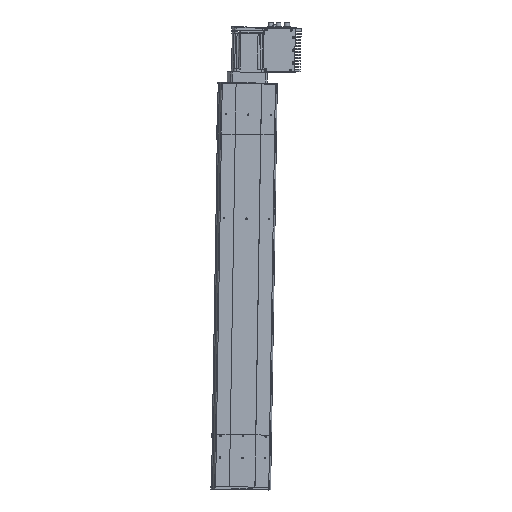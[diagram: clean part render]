
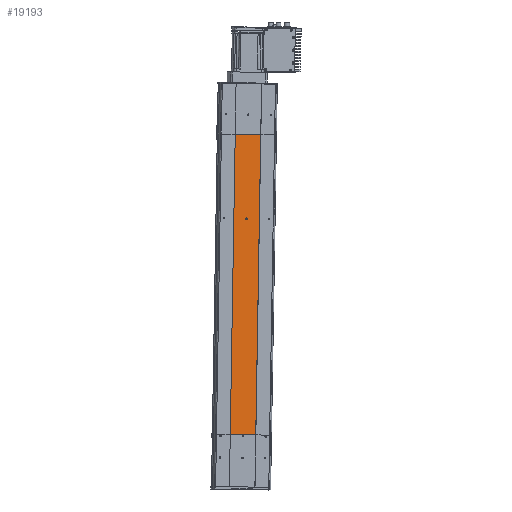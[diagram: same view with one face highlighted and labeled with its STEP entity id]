
A CAD part, front view. The second image highlights one B-rep face of the part: STEP entity #19193.
In plain terms, the highlighted planar face has unit normal (0.098, -0.995, 0.002) as drawn and (0, -1, 0) by its records, which use the part's own axes.
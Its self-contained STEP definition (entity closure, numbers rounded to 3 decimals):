
#1108 = CARTESIAN_POINT ( 'NONE',  ( -30., -32.5, 350. ) ) ;
#1109 = LINE ( 'NONE', #1108, #1265 ) ;
#1166 = LINE ( 'NONE', #1278, #1276 ) ;
#1237 = DIRECTION ( 'NONE',  ( 0., 0., -1. ) ) ;
#1238 = DIRECTION ( 'NONE',  ( 0., -1., 0. ) ) ;
#1251 = CIRCLE ( 'NONE', #1268, 1.6 ) ;
#1252 = CARTESIAN_POINT ( 'NONE',  ( 0., -32.5, 153.7 ) ) ;
#1263 = DIRECTION ( 'NONE',  ( 0., 0., -1. ) ) ;
#1265 = VECTOR ( 'NONE', #1263, 1000. ) ;
#1268 = AXIS2_PLACEMENT_3D ( 'NONE', #1252, #1238, #1237 ) ;
#1275 = DIRECTION ( 'NONE',  ( 1., 0., 0. ) ) ;
#1276 = VECTOR ( 'NONE', #1275, 1000. ) ;
#1278 = CARTESIAN_POINT ( 'NONE',  ( -30., -32.5, 350. ) ) ;
#2606 = CIRCLE ( 'NONE', #2663, 1.6 ) ;
#2635 = CARTESIAN_POINT ( 'NONE',  ( 30., -32.5, 350. ) ) ;
#2637 = LINE ( 'NONE', #2635, #2765 ) ;
#2663 = AXIS2_PLACEMENT_3D ( 'NONE', #2751, #2878, #2877 ) ;
#2751 = CARTESIAN_POINT ( 'NONE',  ( 0., -32.5, 153.7 ) ) ;
#2764 = DIRECTION ( 'NONE',  ( 0., 0., -1. ) ) ;
#2765 = VECTOR ( 'NONE', #2764, 1000. ) ;
#2817 = CARTESIAN_POINT ( 'NONE',  ( -30., -32.5, 350. ) ) ;
#2823 = LINE ( 'NONE', #2937, #2932 ) ;
#2833 = PLANE ( 'NONE',  #2930 ) ;
#2846 = CARTESIAN_POINT ( 'NONE',  ( -30., -32.5, -350. ) ) ;
#2855 = FACE_BOUND ( 'NONE', #18858, .T. ) ;
#2856 = FACE_OUTER_BOUND ( 'NONE', #19247, .T. ) ;
#2877 = DIRECTION ( 'NONE',  ( 0., 0., -1. ) ) ;
#2878 = DIRECTION ( 'NONE',  ( 0., -1., 0. ) ) ;
#2922 = DIRECTION ( 'NONE',  ( 0., 0., 1. ) ) ;
#2923 = DIRECTION ( 'NONE',  ( 0., 1., 0. ) ) ;
#2924 = CARTESIAN_POINT ( 'NONE',  ( -30., -32.5, 350. ) ) ;
#2930 = AXIS2_PLACEMENT_3D ( 'NONE', #2924, #2923, #2922 ) ;
#2931 = DIRECTION ( 'NONE',  ( 1., 0., 0. ) ) ;
#2932 = VECTOR ( 'NONE', #2931, 1000. ) ;
#2937 = CARTESIAN_POINT ( 'NONE',  ( -30., -32.5, -350. ) ) ;
#2953 = CARTESIAN_POINT ( 'NONE',  ( 30., -32.5, 350. ) ) ;
#3236 = CARTESIAN_POINT ( 'NONE',  ( 0., -32.5, 152.1 ) ) ;
#3365 = CARTESIAN_POINT ( 'NONE',  ( 30., -32.5, -350. ) ) ;
#3588 = CARTESIAN_POINT ( 'NONE',  ( 0., -32.5, 155.3 ) ) ;
#18848 = EDGE_CURVE ( 'NONE', #19194, #19237, #1166, .T. ) ;
#18851 = ORIENTED_EDGE ( 'NONE', *, *, #18848, .F. ) ;
#18852 = EDGE_CURVE ( 'NONE', #19194, #19183, #1109, .T. ) ;
#18856 = EDGE_CURVE ( 'NONE', #19291, #19380, #1251, .T. ) ;
#18857 = ORIENTED_EDGE ( 'NONE', *, *, #18852, .T. ) ;
#18858 = EDGE_LOOP ( 'NONE', ( #18861, #18867 ) ) ;
#18861 = ORIENTED_EDGE ( 'NONE', *, *, #18856, .F. ) ;
#18867 = ORIENTED_EDGE ( 'NONE', *, *, #19163, .F. ) ;
#19159 = EDGE_CURVE ( 'NONE', #19237, #19324, #2637, .T. ) ;
#19163 = EDGE_CURVE ( 'NONE', #19380, #19291, #2606, .T. ) ;
#19183 = VERTEX_POINT ( 'NONE', #2846 ) ;
#19191 = EDGE_CURVE ( 'NONE', #19183, #19324, #2823, .T. ) ;
#19193 = ADVANCED_FACE ( 'NONE', ( #2856, #2855 ), #2833, .F. ) ;
#19194 = VERTEX_POINT ( 'NONE', #2817 ) ;
#19200 = ORIENTED_EDGE ( 'NONE', *, *, #19191, .T. ) ;
#19237 = VERTEX_POINT ( 'NONE', #2953 ) ;
#19247 = EDGE_LOOP ( 'NONE', ( #19200, #19426, #18851, #18857 ) ) ;
#19291 = VERTEX_POINT ( 'NONE', #3236 ) ;
#19324 = VERTEX_POINT ( 'NONE', #3365 ) ;
#19380 = VERTEX_POINT ( 'NONE', #3588 ) ;
#19426 = ORIENTED_EDGE ( 'NONE', *, *, #19159, .F. ) ;
